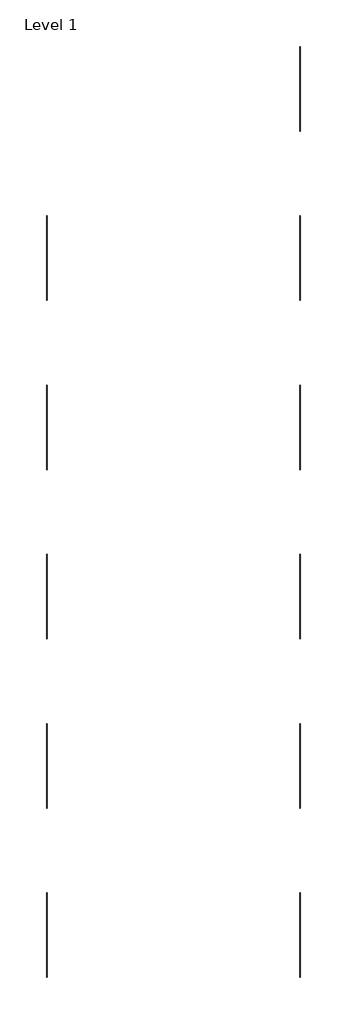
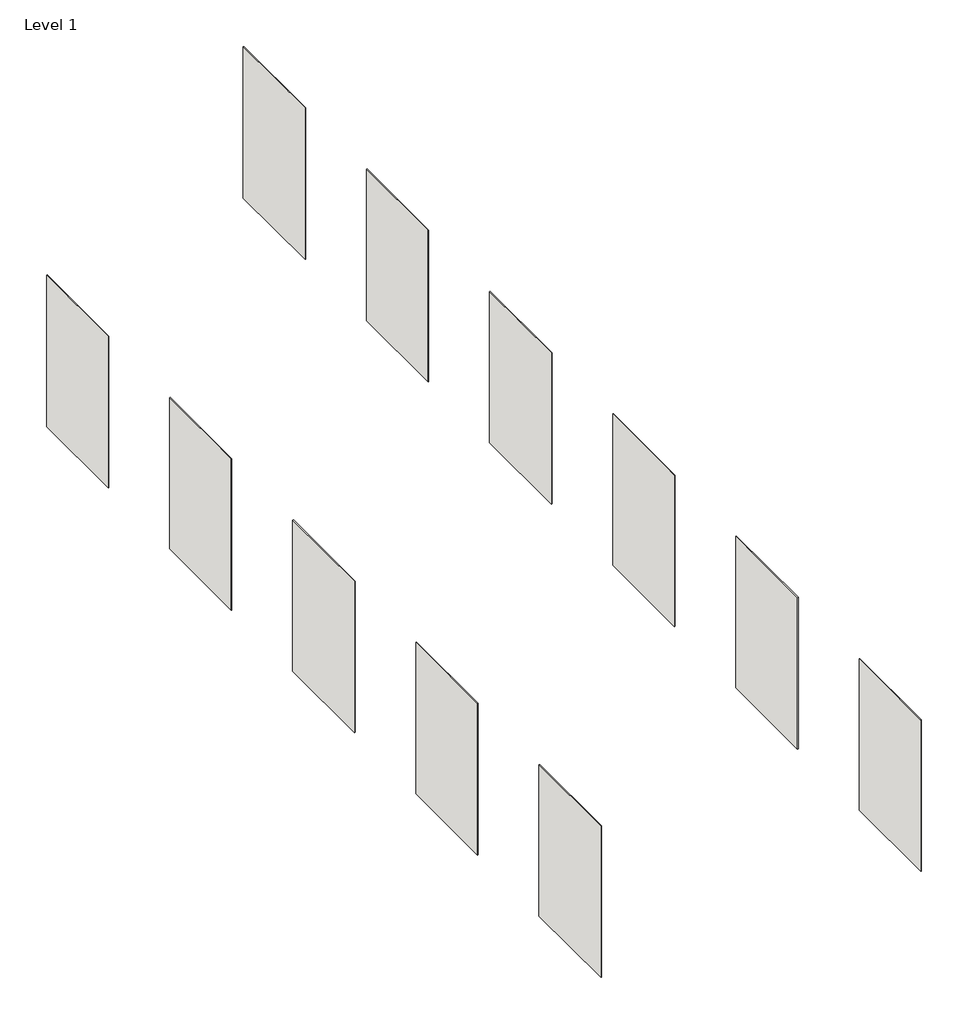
# One storey: 11 coverings.
"""IFC4 building model written with IfcOpenShell, lengths in millimetres."""

from ifc_helpers import new_model, si_unit, origin, origin_with_axes, place, context, project, spatial, polyline, outline, extrude, element, save

model = new_model("IFC4")

# Units and contexts
model_context = context("Model", 3, world=origin())
ifc_project = project(units=[si_unit("LENGTHUNIT", "METRE", prefix="MILLI")], contexts=[model_context])

# Site, building, storey
site = spatial("IfcSite", under=ifc_project)
building = spatial("IfcBuilding", under=site)
storey = spatial("IfcBuildingStorey", under=building, Name="Level 1", Elevation=0.0)

# Coverings
placement = place(None, origin())
element("IfcCovering", 1, ObjectType="PGR_AnticColonial_CeramicTiles_Nazari_Ifrane-115x115mm-100213784", at=placement, inside=storey, context=model_context, shape_type="SweptSolid", body=[
    extrude(outline(polyline([(3516.0774266, -4501.9826748), (3516.0774266, -2501.9826748), (3527.0774266, -2501.9826748), (3527.0774266, -4501.9826748), (3516.0774266, -4501.9826748)])), origin_with_axes(), (0.0, 0.0, 1.0), 3000.0),
])
element("IfcCovering", 2, ObjectType="PGR_AnticColonial_CeramicTiles_Nazari_Fes-115x115mm-100213766", at=placement, inside=storey, context=model_context, shape_type="SweptSolid", body=[
    extrude(outline(polyline([(3516.0774266, -501.9826748), (3516.0774266, 1498.0173252), (3527.0774266, 1498.0173252), (3527.0774266, -501.9826748), (3516.0774266, -501.9826748)])), origin_with_axes(), (0.0, 0.0, 1.0), 3000.0),
])
element("IfcCovering", 3, ObjectType="PGR_AnticColonial_CeramicTiles_Nazari_Chauen-115x115mm-100213777", at=placement, inside=storey, context=model_context, shape_type="SweptSolid", body=[
    extrude(outline(polyline([(3516.0774266, 3498.0173252), (3516.0774266, 5498.0173252), (3527.0774266, 5498.0173252), (3527.0774266, 3498.0173252), (3516.0774266, 3498.0173252)])), origin_with_axes(), (0.0, 0.0, 1.0), 3000.0),
])
element("IfcCovering", 4, ObjectType="PGR_AnticColonial_CeramicTiles_Nazari_Casablanca_Mate-115x115mm-100243581", at=placement, inside=storey, context=model_context, shape_type="SweptSolid", body=[
    extrude(outline(polyline([(3516.0774266, 7498.0173252), (3516.0774266, 9498.0173252), (3527.0774266, 9498.0173252), (3527.0774266, 7498.0173252), (3516.0774266, 7498.0173252)])), origin_with_axes(), (0.0, 0.0, 1.0), 3000.0),
])
element("IfcCovering", 5, ObjectType="PGR_AnticColonial_CeramicTiles_Nazari_Casablanca_Brillo-115x115mm-100243592", at=placement, inside=storey, context=model_context, shape_type="SweptSolid", body=[
    extrude(outline(polyline([(3516.0774266, 11498.0173252), (3516.0774266, 13498.0173252), (3527.0774266, 13498.0173252), (3527.0774266, 11498.0173252), (3516.0774266, 11498.0173252)])), origin_with_axes(), (0.0, 0.0, 1.0), 3000.0),
])
element("IfcCovering", 6, ObjectType="PGR_AnticColonial_CeramicTiles_Nazari_Asilah-115x115mm-100213765", at=placement, inside=storey, context=model_context, shape_type="SweptSolid", body=[
    extrude(outline(polyline([(3516.0774266, 15498.0173252), (3516.0774266, 17498.0173252), (3527.0774266, 17498.0173252), (3527.0774266, 15498.0173252), (3516.0774266, 15498.0173252)])), origin_with_axes(), (0.0, 0.0, 1.0), 3000.0),
])
element("IfcCovering", 7, ObjectType="PGR_AnticColonial_CeramicTiles_Nazari_Yadida-115x115mm-100243601", at=placement, inside=storey, context=model_context, shape_type="SweptSolid", body=[
    extrude(outline(polyline([(-2483.9225734, -4501.9826748), (-2483.9225734, -2501.9826748), (-2472.9225734, -2501.9826748), (-2472.9225734, -4501.9826748), (-2483.9225734, -4501.9826748)])), origin_with_axes(), (0.0, 0.0, 1.0), 3000.0),
])
element("IfcCovering", 8, ObjectType="PGR_AnticColonial_CeramicTiles_Nazari_Sale-115x115mm-100220354", at=placement, inside=storey, context=model_context, shape_type="SweptSolid", body=[
    extrude(outline(polyline([(-2483.9225734, -501.9826748), (-2483.9225734, 1498.0173252), (-2472.9225734, 1498.0173252), (-2472.9225734, -501.9826748), (-2483.9225734, -501.9826748)])), origin_with_axes(), (0.0, 0.0, 1.0), 3000.0),
])
element("IfcCovering", 9, ObjectType="PGR_AnticColonial_CeramicTiles_Nazari_Safi-115x115mm-100223245", at=placement, inside=storey, context=model_context, shape_type="SweptSolid", body=[
    extrude(outline(polyline([(-2483.9225734, 3498.0173252), (-2483.9225734, 5498.0173252), (-2472.9225734, 5498.0173252), (-2472.9225734, 3498.0173252), (-2483.9225734, 3498.0173252)])), origin_with_axes(), (0.0, 0.0, 1.0), 3000.0),
])
element("IfcCovering", 10, ObjectType="PGR_AnticColonial_CeramicTiles_Nazari_Rabat-115x115mm-100243567", at=placement, inside=storey, context=model_context, shape_type="SweptSolid", body=[
    extrude(outline(polyline([(-2483.9225734, 7498.0173252), (-2483.9225734, 9498.0173252), (-2472.9225734, 9498.0173252), (-2472.9225734, 7498.0173252), (-2483.9225734, 7498.0173252)])), origin_with_axes(), (0.0, 0.0, 1.0), 3000.0),
])
element("IfcCovering", 11, ObjectType="PGR_AnticColonial_CeramicTiles_Nazari_Marrakech-115x115mm-100213785", at=placement, inside=storey, context=model_context, shape_type="SweptSolid", body=[
    extrude(outline(polyline([(-2483.9225734, 11498.0173252), (-2483.9225734, 13498.0173252), (-2472.9225734, 13498.0173252), (-2472.9225734, 11498.0173252), (-2483.9225734, 11498.0173252)])), origin_with_axes(), (0.0, 0.0, 1.0), 3000.0),
])

save(model, "model.ifc")
